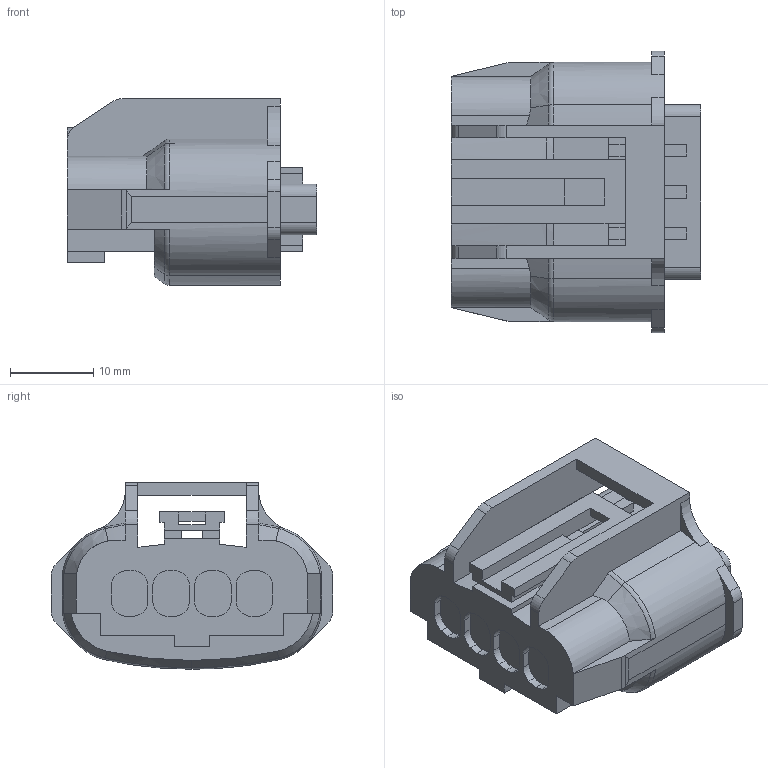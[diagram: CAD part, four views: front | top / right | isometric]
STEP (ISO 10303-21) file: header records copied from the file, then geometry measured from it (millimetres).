
FILE_DESCRIPTION(('CATIA V5 STEP Exchange','CAx-IF Rec.Pracs.--- Model Styling and Organization---1.2---2011-12-15'),'2;1');
FILE_NAME('\\Fss01.ad.sws.co.jp\fs030008\技術管理部\共通\業務\3D設計推進\カタログ用３Ｄ\仮置き\US(Sealed)\6189-7292.stp','2016-02-18T02:24:23+00:00',('none'),('none'),'CATIA Version 5-6 Release 2013 SP5 HF43','CATIA V5 STEP AP214','none');
FILE_SCHEMA(('AUTOMOTIVE_DESIGN { 1 0 10303 214 1 1 1 1 }'));
Length unit declared in the file: millimetre
Products named in the file (1): 6189-7292
Bounding box: 30 x 33.8 x 22.4 mm (x, y, z)
Volume: 8995 mm3; surface area: 6313.2 mm2
Topology: 1 solids, 1 shells, 252 faces, 773 edges, 526 vertices
Faces by surface type: plane 150, cylinder 85, cone 8, torus 8, bspline 1
Entity records: 8570 total; most frequent: CARTESIAN_POINT 1713, ORIENTED_EDGE 1546, DIRECTION 1140, EDGE_CURVE 773, VERTEX_POINT 526, VECTOR 505, LINE 505, AXIS2_PLACEMENT_3D 427
